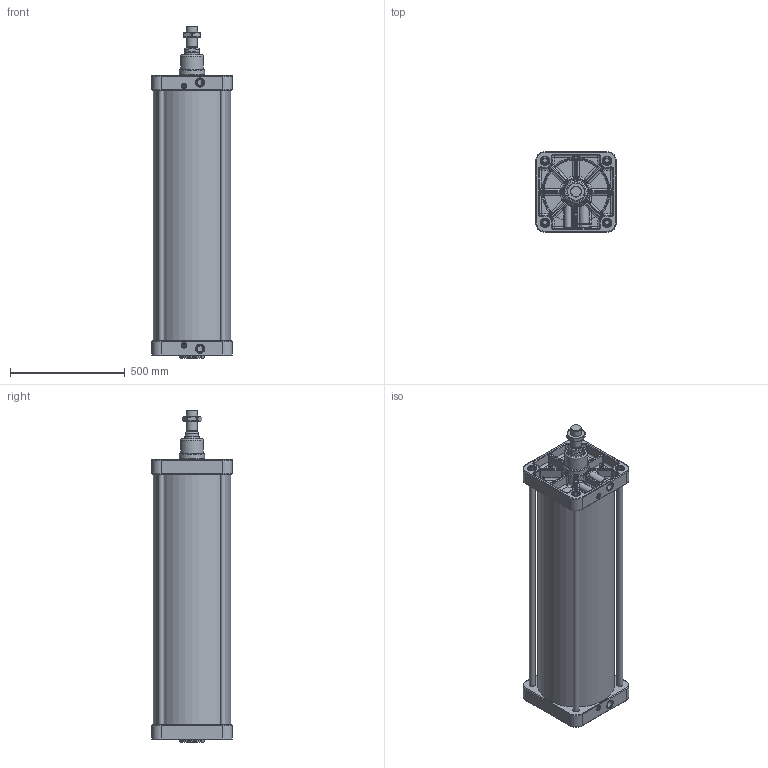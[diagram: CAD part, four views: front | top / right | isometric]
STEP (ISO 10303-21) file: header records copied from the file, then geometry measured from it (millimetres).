
FILE_DESCRIPTION(/* description */ (''),/* implementation_level */ '2;1');
FILE_NAME(/* name */ 'T:\Archivio Inventor\- 00 NUOVI STP PER SITO CON STELO CHE SI MUOVE\SERIE H - U\SERIE UDM\UDM320.---.GS.M\UDM320.1000.GS.M.stp',/* time_stamp */ '2020-04-29T16:39:41+02:00',/* author */ ('carlo.corazza'),/* organization */ (''),/* preprocessor_version */ 'ST-DEVELOPER v16.5',/* originating_system */ 'Autodesk Inventor 2017',/* authorisation */ '');
FILE_SCHEMA (('AUTOMOTIVE_DESIGN { 1 0 10303 214 3 1 1 }'));
Length unit declared in the file: millimetre
Products named in the file (7): UDM320.1000.GS.M; TP; STELO-1000; TA; CORPO-1000; TIRANTE-1000; 29.2048.000.0
Assembly tree (9 placements, depth 2):
  UDM320.1000.GS.M
    TP
    STELO-1000
    TA
    TIRANTE-1000  x4
    CORPO-1000
    29.2048.000.0
Bounding box: 350 x 350 x 1446 mm (x, y, z)
Volume: 24362254.4 mm3; surface area: 4040689.3 mm2
Topology: 9 solids, 16 shells, 1710 faces, 3937 edges, 2221 vertices
Faces by surface type: cylinder 439, bspline 432, plane 380, torus 252, cone 115, sphere 92
Full cylindrical faces by diameter (mm): 8 x2, 9 x1, 10 x1, 11 x2, 11.2 x2, 12 x2, 12.376 x1, 13.4 x4, 14 x2, 15.8 x4, 16 x6, 20.752 x8, 24 x10, 24.5 x8, 25 x6, 30.291 x2, 36 x9, 37 x8, 40 x2, 44.8 x1, 45.835 x1, 48 x1, 62 x1, 63 x1, 64 x1, 64.293 x1, 65.8 x1, 73 x1, 75 x3, 100 x1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
Entity records: 64917 total; most frequent: CARTESIAN_POINT 27888, DIRECTION 7314, ORIENTED_EDGE 7088, EDGE_CURVE 3544, AXIS2_PLACEMENT_3D 3113, VERTEX_POINT 2134, EDGE_LOOP 1966, FACE_OUTER_BOUND 1683
